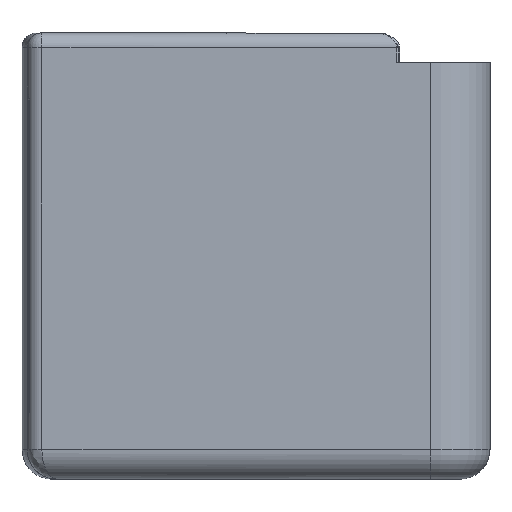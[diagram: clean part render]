
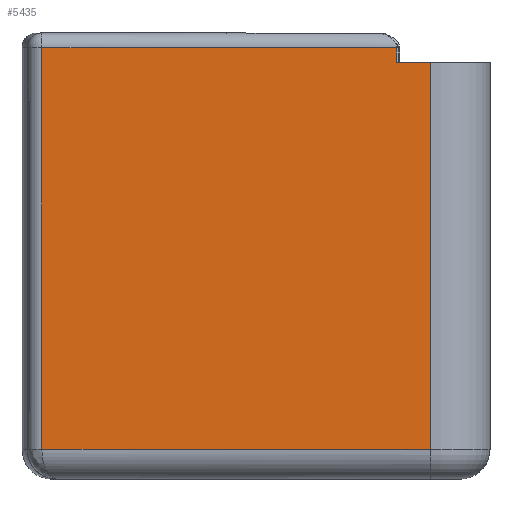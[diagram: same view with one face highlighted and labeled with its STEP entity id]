
A CAD part, front view. The second image highlights one B-rep face of the part: STEP entity #5435.
In plain terms, the highlighted planar face has unit normal (0, -1, 0).
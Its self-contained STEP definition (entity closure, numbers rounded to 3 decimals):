
#7=DIRECTION('',(-1.,0.,0.));
#8=VECTOR('',#7,3.414);
#9=CARTESIAN_POINT('',(16.15,-67.65,10.6));
#10=LINE('',#9,#8);
#924=DIRECTION('',(0.,0.,-1.));
#925=VECTOR('',#924,1.5);
#926=CARTESIAN_POINT('',(12.736,-67.65,12.1));
#927=LINE('',#926,#925);
#928=DIRECTION('',(0.,0.,-1.));
#929=VECTOR('',#928,39.1);
#930=CARTESIAN_POINT('',(16.15,-67.65,10.6));
#931=LINE('',#930,#929);
#932=DIRECTION('',(-1.,0.,0.));
#933=VECTOR('',#932,39.286);
#934=CARTESIAN_POINT('',(16.15,-67.65,-28.5));
#935=LINE('',#934,#933);
#936=DIRECTION('',(0.,0.,1.));
#937=VECTOR('',#936,40.6);
#938=CARTESIAN_POINT('',(-23.136,-67.65,
-28.5));
#939=LINE('',#938,#937);
#940=DIRECTION('',(1.,0.,0.));
#941=VECTOR('',#940,35.872);
#942=CARTESIAN_POINT('',(-23.136,-67.65,12.1));
#943=LINE('',#942,#941);
#3821=CARTESIAN_POINT('',(16.15,-67.65,-28.5));
#3822=CARTESIAN_POINT('',(-23.136,-67.65,
-28.5));
#3823=VERTEX_POINT('',#3821);
#3824=VERTEX_POINT('',#3822);
#3841=CARTESIAN_POINT('',(16.15,-67.65,10.6));
#3843=VERTEX_POINT('',#3841);
#4109=CARTESIAN_POINT('',(-23.136,-67.65,12.1));
#4111=VERTEX_POINT('',#4109);
#4128=CARTESIAN_POINT('',(12.736,-67.65,12.1));
#4129=CARTESIAN_POINT('',(12.736,-67.65,10.6));
#4130=VERTEX_POINT('',#4128);
#4131=VERTEX_POINT('',#4129);
#5418=CARTESIAN_POINT('',(-25.15,-67.65,-30.));
#5419=DIRECTION('',(0.,-1.,0.));
#5420=DIRECTION('',(1.,0.,0.));
#5421=AXIS2_PLACEMENT_3D('',#5418,#5419,#5420);
#5422=PLANE('',#5421);
#5424=ORIENTED_EDGE('',*,*,#5423,.T.);
#5425=ORIENTED_EDGE('',*,*,#4482,.F.);
#5427=ORIENTED_EDGE('',*,*,#5426,.T.);
#5428=ORIENTED_EDGE('',*,*,#5408,.T.);
#5430=ORIENTED_EDGE('',*,*,#5429,.T.);
#5432=ORIENTED_EDGE('',*,*,#5431,.T.);
#5433=EDGE_LOOP('',(#5424,#5425,#5427,#5428,#5430,#5432));
#5434=FACE_OUTER_BOUND('',#5433,.F.);
#5435=ADVANCED_FACE('',(#5434),#5422,.T.);
#4482=EDGE_CURVE('',#3843,#4131,#10,.T.);
#5408=EDGE_CURVE('',#3823,#3824,#935,.T.);
#5423=EDGE_CURVE('',#4130,#4131,#927,.T.);
#5426=EDGE_CURVE('',#3843,#3823,#931,.T.);
#5429=EDGE_CURVE('',#3824,#4111,#939,.T.);
#5431=EDGE_CURVE('',#4111,#4130,#943,.T.);
